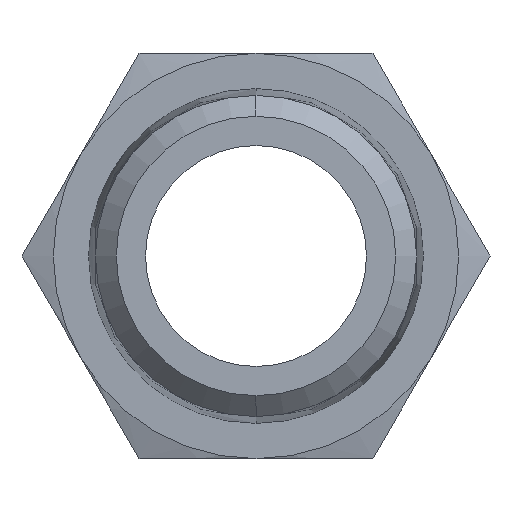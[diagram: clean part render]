
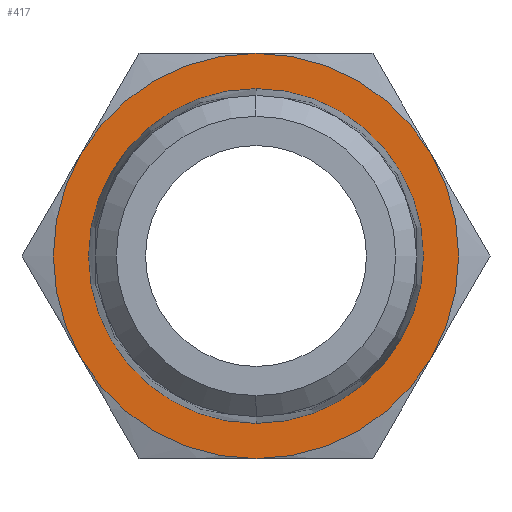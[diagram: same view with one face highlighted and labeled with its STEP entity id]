
A CAD part, left-side view. The second image highlights one B-rep face of the part: STEP entity #417.
In plain terms, the highlighted planar face has unit normal (-1, 0, 0).
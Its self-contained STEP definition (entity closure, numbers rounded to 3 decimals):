
#6 = EDGE_CURVE ( 'NONE', #84, #187, #741, .T. ) ;
#84 = VERTEX_POINT ( 'NONE', #811 ) ;
#85 = ORIENTED_EDGE ( 'NONE', *, *, #213, .F. ) ;
#86 = EDGE_LOOP ( 'NONE', ( #87, #89, #91, #93, #158, #160 ) ) ;
#87 = ORIENTED_EDGE ( 'NONE', *, *, #88, .F. ) ;
#88 = EDGE_CURVE ( 'NONE', #123, #84, #816, .T. ) ;
#89 = ORIENTED_EDGE ( 'NONE', *, *, #90, .F. ) ;
#90 = EDGE_CURVE ( 'NONE', #113, #123, #817, .T. ) ;
#91 = ORIENTED_EDGE ( 'NONE', *, *, #92, .F. ) ;
#92 = EDGE_CURVE ( 'NONE', #195, #113, #856, .T. ) ;
#93 = ORIENTED_EDGE ( 'NONE', *, *, #94, .F. ) ;
#94 = EDGE_CURVE ( 'NONE', #170, #195, #810, .T. ) ;
#113 = VERTEX_POINT ( 'NONE', #956 ) ;
#123 = VERTEX_POINT ( 'NONE', #776 ) ;
#158 = ORIENTED_EDGE ( 'NONE', *, *, #159, .T. ) ;
#159 = EDGE_CURVE ( 'NONE', #170, #187, #934, .T. ) ;
#160 = ORIENTED_EDGE ( 'NONE', *, *, #6, .F. ) ;
#170 = VERTEX_POINT ( 'NONE', #879 ) ;
#187 = VERTEX_POINT ( 'NONE', #959 ) ;
#195 = VERTEX_POINT ( 'NONE', #1117 ) ;
#211 = VERTEX_POINT ( 'NONE', #1017 ) ;
#213 = EDGE_CURVE ( 'NONE', #211, #214, #985, .T. ) ;
#214 = VERTEX_POINT ( 'NONE', #980 ) ;
#417 = ADVANCED_FACE ( 'NONE', ( #1311, #1319 ), #1310, .F. ) ;
#418 = EDGE_LOOP ( 'NONE', ( #419, #85 ) ) ;
#419 = ORIENTED_EDGE ( 'NONE', *, *, #420, .F. ) ;
#420 = EDGE_CURVE ( 'NONE', #214, #211, #1299, .T. ) ;
#731 = DIRECTION ( 'NONE',  ( 0., 0., -1. ) ) ;
#732 = DIRECTION ( 'NONE',  ( 1., 0., 0. ) ) ;
#733 = CARTESIAN_POINT ( 'NONE',  ( 0., 0., 0. ) ) ;
#734 = AXIS2_PLACEMENT_3D ( 'NONE', #733, #732, #731 ) ;
#741 = CIRCLE ( 'NONE', #734, 20.64 ) ;
#776 = CARTESIAN_POINT ( 'NONE',  ( 0., 0., -20.64 ) ) ;
#806 = DIRECTION ( 'NONE',  ( 0., 0., -1. ) ) ;
#807 = DIRECTION ( 'NONE',  ( 1., 0., 0. ) ) ;
#808 = CARTESIAN_POINT ( 'NONE',  ( 0., 0., 0. ) ) ;
#809 = AXIS2_PLACEMENT_3D ( 'NONE', #808, #807, #806 ) ;
#810 = CIRCLE ( 'NONE', #809, 20.64 ) ;
#811 = CARTESIAN_POINT ( 'NONE',  ( 0., 17.875, -10.32 ) ) ;
#812 = DIRECTION ( 'NONE',  ( 0., 0., -1. ) ) ;
#813 = DIRECTION ( 'NONE',  ( 1., 0., 0. ) ) ;
#814 = CARTESIAN_POINT ( 'NONE',  ( 0., 0., 0. ) ) ;
#815 = AXIS2_PLACEMENT_3D ( 'NONE', #814, #813, #812 ) ;
#816 = CIRCLE ( 'NONE', #901, 20.64 ) ;
#817 = CIRCLE ( 'NONE', #815, 20.64 ) ;
#852 = DIRECTION ( 'NONE',  ( 0., 0., -1. ) ) ;
#853 = DIRECTION ( 'NONE',  ( 1., 0., 0. ) ) ;
#854 = CARTESIAN_POINT ( 'NONE',  ( 0., 0., 0. ) ) ;
#855 = AXIS2_PLACEMENT_3D ( 'NONE', #854, #853, #852 ) ;
#856 = CIRCLE ( 'NONE', #855, 20.64 ) ;
#879 = CARTESIAN_POINT ( 'NONE',  ( 0., 0., 20.64 ) ) ;
#897 = DIRECTION ( 'NONE',  ( 0., 0., 1. ) ) ;
#898 = DIRECTION ( 'NONE',  ( 0., 0., -1. ) ) ;
#899 = DIRECTION ( 'NONE',  ( 1., 0., 0. ) ) ;
#900 = CARTESIAN_POINT ( 'NONE',  ( 0., 0., 0. ) ) ;
#901 = AXIS2_PLACEMENT_3D ( 'NONE', #900, #899, #898 ) ;
#931 = DIRECTION ( 'NONE',  ( -1., 0., 0. ) ) ;
#932 = CARTESIAN_POINT ( 'NONE',  ( 0., 0., 0. ) ) ;
#933 = AXIS2_PLACEMENT_3D ( 'NONE', #932, #931, #897 ) ;
#934 = CIRCLE ( 'NONE', #933, 20.64 ) ;
#956 = CARTESIAN_POINT ( 'NONE',  ( 0., -17.875, -10.32 ) ) ;
#959 = CARTESIAN_POINT ( 'NONE',  ( 0., 17.875, 10.32 ) ) ;
#980 = CARTESIAN_POINT ( 'NONE',  ( 0., 0., 17.049 ) ) ;
#981 = DIRECTION ( 'NONE',  ( 0., 0., -1. ) ) ;
#982 = DIRECTION ( 'NONE',  ( -1., 0., 0. ) ) ;
#983 = CARTESIAN_POINT ( 'NONE',  ( 0., 0., 0. ) ) ;
#984 = AXIS2_PLACEMENT_3D ( 'NONE', #983, #982, #981 ) ;
#985 = CIRCLE ( 'NONE', #984, 17.049 ) ;
#1017 = CARTESIAN_POINT ( 'NONE',  ( 0., 0., -17.049 ) ) ;
#1117 = CARTESIAN_POINT ( 'NONE',  ( 0., -17.875, 10.32 ) ) ;
#1295 = DIRECTION ( 'NONE',  ( 0., 0., -1. ) ) ;
#1296 = DIRECTION ( 'NONE',  ( -1., 0., 0. ) ) ;
#1297 = CARTESIAN_POINT ( 'NONE',  ( 0., 0., 0. ) ) ;
#1298 = AXIS2_PLACEMENT_3D ( 'NONE', #1297, #1296, #1295 ) ;
#1299 = CIRCLE ( 'NONE', #1298, 17.049 ) ;
#1300 = DIRECTION ( 'NONE',  ( 0., 0., -1. ) ) ;
#1301 = DIRECTION ( 'NONE',  ( 1., 0., 0. ) ) ;
#1302 = AXIS2_PLACEMENT_3D ( 'NONE', #1309, #1301, #1300 ) ;
#1309 = CARTESIAN_POINT ( 'NONE',  ( 0., 23.833, 0. ) ) ;
#1310 = PLANE ( 'NONE',  #1302 ) ;
#1311 = FACE_BOUND ( 'NONE', #418, .T. ) ;
#1319 = FACE_OUTER_BOUND ( 'NONE', #86, .T. ) ;
